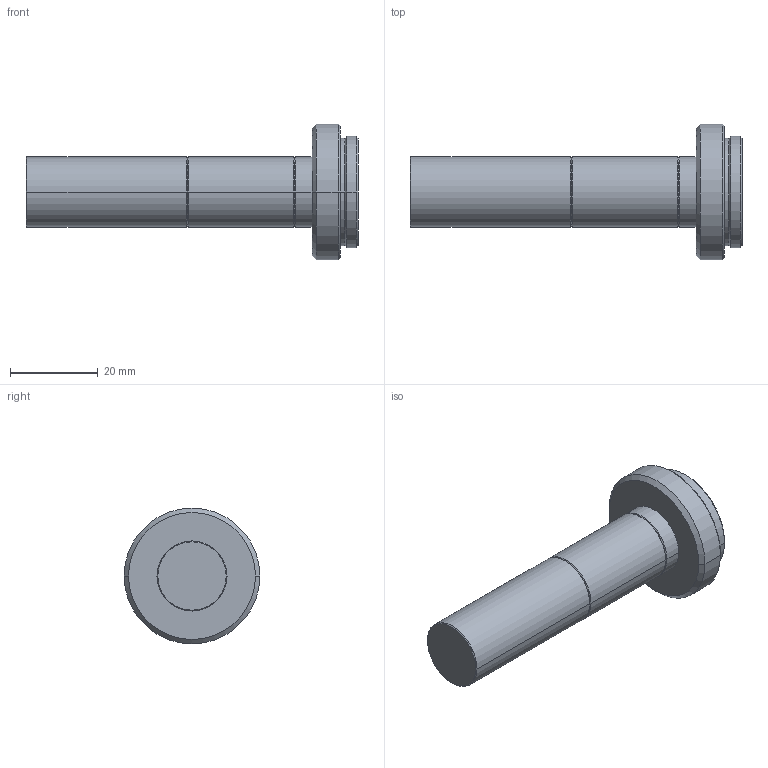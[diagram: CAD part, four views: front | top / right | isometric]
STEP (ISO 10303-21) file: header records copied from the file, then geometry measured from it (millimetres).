
FILE_DESCRIPTION (( 'STEP AP214' ), '1' );
FILE_NAME ('VS-TC08-120.STEP', '2019-01-28T08:21:45', ( '' ), ( '' ), 'SwSTEP 2.0', 'SolidWorks 2018', '' );
FILE_SCHEMA (( 'AUTOMOTIVE_DESIGN' ));
Length unit declared in the file: millimetre
Products named in the file (1): VS-TC08-120
Bounding box: 75.82 x 31 x 31 mm (x, y, z)
Volume: 19958.3 mm3; surface area: 5690.6 mm2
Topology: 1 solids, 1 shells, 34 faces, 66 edges, 36 vertices
Faces by surface type: cone 18, cylinder 12, plane 4
Entity records: 888 total; most frequent: DIRECTION 172, CARTESIAN_POINT 137, ORIENTED_EDGE 132, AXIS2_PLACEMENT_3D 71, EDGE_CURVE 66, CIRCLE 36, VERTEX_POINT 36, EDGE_LOOP 36
